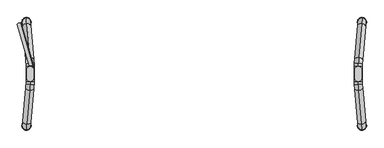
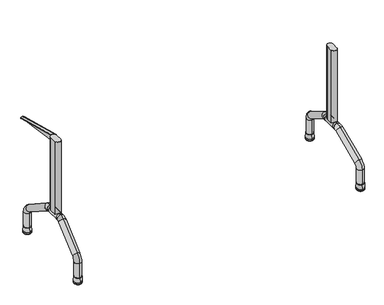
"""IFC4 building model written with IfcOpenShell, lengths in millimetres: furniture geometry, Mesa para refeitório : Mesa para refeitório 180x60cm cód 70471.6."""

from ifc_helpers import new_model, si_unit, point, frame, frame_2d, origin, place, context, project, spatial, polyline, circle_curve, ellipse_curve, trimmed, segment, composite_curve, outline, extrude, source, transform, mapped, element, save
from ifc_brep_helpers import plane_surface, cylinder_surface, revolved_surface, extruded_surface, advanced_brep


def furniture_8f38371c(model_context):
    return source(origin(), model_context, "Body", "SolidModel", [
        advanced_brep(
        [(-819.4401581, 37.5, 255.0), (-819.4401581, -37.5, 255.0), (-819.4401581, -37.5, 295.0), (-819.4401581, 37.5, 295.0), (-820.0583573, -51.7441422, 295.0), (-820.0583573, -51.7441422, 255.0), (-820.0583573, 51.7441422, 295.0), (-820.0583573, 51.7441422, 255.0)],
        [
            (0, 1),
            (1, 2, ellipse_curve(frame((-819.4401581, -37.5, 275.0), z_axis=(0.0, 1.0, 0.0), x_axis=(0.0, 0.0, -1.0)), 20.0, 19.923894)),
            (2, 3),
            (3, 0, ellipse_curve(frame((-819.4401581, 37.5, 275.0), z_axis=(0.0, -1.0, 0.0), x_axis=(0.0, 0.0, -1.0)), 20.0, 19.923894)),
            (2, 1, ellipse_curve(frame((-819.4401581, -37.5, 275.0), z_axis=(0.0, 1.0, 0.0), x_axis=(0.0, 0.0, -1.0)), 20.0, 19.923894)),
            (0, 3, ellipse_curve(frame((-819.4401581, 37.5, 275.0), z_axis=(0.0, -1.0, 0.0), x_axis=(0.0, 0.0, -1.0)), 20.0, 19.923894)),
            (4, 5, ellipse_curve(frame((-820.0583573, -51.7441422, 275.0), z_axis=(-0.08663729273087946, -0.9962399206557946, 0.0), x_axis=(0.0, 0.0, -1.0)), 20.0, 19.923894)),
            (5, 4, ellipse_curve(frame((-820.0583573, -51.7441422, 275.0), z_axis=(-0.08663729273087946, -0.9962399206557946, 0.0), x_axis=(0.0, 0.0, -1.0)), 20.0, 19.923894)),
            (4, 2, circle_curve(frame((-983.8513695, -37.5, 295.0), z_axis=(0.0, 0.0, 1.0), x_axis=(1.0, 0.0, 0.0)), 164.4112114)),
            (1, 5, circle_curve(frame((-983.8513695, -37.5, 255.0), z_axis=(0.0, 0.0, -1.0), x_axis=(1.0, 0.0, 0.0)), 164.4112114)),
            (6, 7, ellipse_curve(frame((-820.0583573, 51.7441422, 275.0), z_axis=(-0.08663729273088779, 0.9962399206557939, 0.0), x_axis=(0.0, 0.0, -1.0)), 20.0, 19.923894)),
            (7, 6, ellipse_curve(frame((-820.0583573, 51.7441422, 275.0), z_axis=(-0.08663729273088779, 0.9962399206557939, 0.0), x_axis=(0.0, 0.0, -1.0)), 20.0, 19.923894)),
            (3, 6, circle_curve(frame((-983.8513695, 37.5, 295.0), z_axis=(0.0, 0.0, 1.0), x_axis=(0.996239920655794, 0.08663729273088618, 0.0)), 164.4112114)),
            (7, 0, circle_curve(frame((-983.8513695, 37.5, 255.0), z_axis=(0.0, 0.0, -1.0), x_axis=(0.996239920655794, 0.08663729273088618, 0.0)), 164.4112114)),
        ],
        [
            extruded_surface(trimmed(ellipse_curve(frame((-819.4401581, 37.5, 275.0), z_axis=(0.0, -1.0, 0.0), x_axis=(0.0, 0.0, -1.0)), 20.0, 19.923894), [point((-819.4401581, 37.5, 295.0))], [point((-819.4401581, 37.5, 255.0))], True, "CARTESIAN"), (0.0, -75.0, 0.0), 75.0),
            extruded_surface(trimmed(ellipse_curve(frame((-819.4401581, 37.5, 275.0), z_axis=(0.0, -1.0, 0.0), x_axis=(0.0, 0.0, -1.0)), 20.0, 19.923894), [point((-819.4401581, 37.5, 255.0))], [point((-819.4401581, 37.5, 295.0))], True, "CARTESIAN"), (0.0, -75.0, 0.0), 75.0),
            plane_surface(frame((-820.0583573, -51.7441422, 0.0), z_axis=(-0.08663729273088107, -0.9962399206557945, 0.0), x_axis=(0.0, 0.0, 1.0))),
            revolved_surface(trimmed(ellipse_curve(frame((-819.4401581, -37.5, 275.0), z_axis=(0.0, -1.0, 0.0), x_axis=(0.0, 0.0, -1.0)), 20.0, 19.923894), [point((-819.4401581, -37.5, 295.0))], [point((-819.4401581, -37.5, 255.0))], True, "CARTESIAN"), (-983.8513695, -37.5, 0.0), (0.0, 0.0, 1.0)),
            revolved_surface(trimmed(ellipse_curve(frame((-819.4401581, -37.5, 275.0), z_axis=(0.0, -1.0, 0.0), x_axis=(0.0, 0.0, -1.0)), 20.0, 19.923894), [point((-819.4401581, -37.5, 255.0))], [point((-819.4401581, -37.5, 295.0))], True, "CARTESIAN"), (-983.8513695, -37.5, 0.0), (0.0, 0.0, 1.0)),
            plane_surface(frame((-820.0583573, 51.7441422, 0.0), z_axis=(-0.08663729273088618, 0.996239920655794, 0.0), x_axis=(0.0, 0.0, 1.0))),
            revolved_surface(trimmed(ellipse_curve(frame((-820.0583573, 51.7441422, 275.0), z_axis=(0.08663729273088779, -0.9962399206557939, 0.0), x_axis=(0.0, 0.0, -1.0)), 20.0, 19.923894), [point((-820.0583573, 51.7441422, 295.0))], [point((-820.0583573, 51.7441422, 255.0))], True, "CARTESIAN"), (-983.8513695, 37.5, 0.0), (0.0, 0.0, 1.0)),
            revolved_surface(trimmed(ellipse_curve(frame((-820.0583573, 51.7441422, 275.0), z_axis=(0.08663729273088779, -0.9962399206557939, 0.0), x_axis=(0.0, 0.0, -1.0)), 20.0, 19.923894), [point((-820.0583573, 51.7441422, 255.0))], [point((-820.0583573, 51.7441422, 295.0))], True, "CARTESIAN"), (-983.8513695, 37.5, 0.0), (0.0, 0.0, 1.0)),
        ],
        [
            (0, [[1, 2, 3, 4]]),
            (1, [[-3, 5, -1, 6]]),
            (2, [[7, 8]]),
            (3, [[-7, 9, -2, 10]]),
            (4, [[-8, -10, -5, -9]]),
            (5, [[11, 12]]),
            (6, [[-4, 13, -12, 14]]),
            (7, [[-6, -14, -11, -13]]),
        ],
    ),
        advanced_brep(
        [(-839.9590188, 279.1314153, 43.1183008), (-836.4727891, 239.2836274, 43.1183008), (-839.9590188, 279.1314153, 130.5759348), (-836.4727891, 239.2836274, 130.5759348), (-837.4872272, 250.8787073, 181.5558347), (-822.822711, 83.2625212, 285.9798998), (-820.9843424, 62.2498719, 251.9932999), (-835.6488585, 229.866058, 147.5692348), (-820.0651581, 51.7435473, 295.0), (-820.0651581, 51.7435473, 255.0)],
        [
            (0, 1, circle_curve(frame((-838.215904, 259.2075213, 43.1183008), z_axis=(0.0, 0.0, -1.0), x_axis=(0.08715574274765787, -0.9961946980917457, 0.0)), 20.0)),
            (1, 0, circle_curve(frame((-838.215904, 259.2075213, 43.1183008), z_axis=(0.0, 0.0, -1.0), x_axis=(0.08715574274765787, -0.9961946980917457, 0.0)), 20.0)),
            (0, 2),
            (2, 3, circle_curve(frame((-838.215904, 259.2075213, 130.5759348), z_axis=(0.0, 0.0, -1.0), x_axis=(0.08715574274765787, -0.9961946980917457, 0.0)), 20.0)),
            (3, 1),
            (3, 2, circle_curve(frame((-838.215904, 259.2075213, 130.5759348), z_axis=(0.0, 0.0, -1.0), x_axis=(0.08715574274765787, -0.9961946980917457, 0.0)), 20.0)),
            (4, 5),
            (5, 6, circle_curve(frame((-821.9035267, 72.7561965, 268.9865999), z_axis=(-0.07405318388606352, 0.8464317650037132, -0.5273228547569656), x_axis=(0.04595921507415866, -0.5253162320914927, -0.8496649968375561)), 20.0)),
            (6, 7),
            (7, 4, circle_curve(frame((-836.5680429, 240.3723827, 164.5625347), z_axis=(0.07405318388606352, -0.8464317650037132, 0.5273228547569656), x_axis=(0.04595921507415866, -0.5253162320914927, -0.8496649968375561)), 20.0)),
            (6, 5, circle_curve(frame((-821.9035267, 72.7561965, 268.9865999), z_axis=(-0.07405318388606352, 0.8464317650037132, -0.5273228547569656), x_axis=(0.04595921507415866, -0.5253162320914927, -0.8496649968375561)), 20.0)),
            (4, 7, circle_curve(frame((-836.5680429, 240.3723827, 164.5625347), z_axis=(0.07405318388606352, -0.8464317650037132, 0.5273228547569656), x_axis=(0.04595921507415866, -0.5253162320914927, -0.8496649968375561)), 20.0)),
            (7, 3, circle_curve(frame((-834.7296742, 219.3597334, 130.5759348), z_axis=(-0.9961946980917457, -0.08715574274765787, 0.0), x_axis=(-0.08715574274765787, 0.9961946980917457, 0.0)), 20.0)),
            (2, 4, circle_curve(frame((-834.7296742, 219.3597334, 130.5759348), z_axis=(0.9961946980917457, 0.08715574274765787, 0.0), x_axis=(-0.08715574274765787, 0.9961946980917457, 0.0)), 60.0)),
            (8, 9, circle_curve(frame((-820.0651581, 51.7435473, 275.0), z_axis=(0.08715574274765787, -0.9961946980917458, 0.0), x_axis=(0.0, 0.0, -1.0)), 20.0)),
            (9, 8, circle_curve(frame((-820.0651581, 51.7435473, 275.0), z_axis=(0.08715574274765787, -0.9961946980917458, 0.0), x_axis=(0.0, 0.0, -1.0)), 20.0)),
            (9, 6, circle_curve(frame((-820.0651581, 51.7435473, 235.0), z_axis=(-0.9961946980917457, -0.08715574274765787, 0.0), x_axis=(-0.045959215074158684, 0.5253162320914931, 0.8496649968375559)), 20.0)),
            (5, 8, circle_curve(frame((-820.0651581, 51.7435473, 235.0), z_axis=(0.9961946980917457, 0.08715574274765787, 0.0), x_axis=(-0.045959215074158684, 0.5253162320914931, 0.8496649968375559)), 60.0)),
        ],
        [
            plane_surface(frame((-150.8415623, 319.3449838, 43.1183008), z_axis=(0.0, 0.0, -1.0000000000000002), x_axis=(-0.9961946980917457, -0.08715574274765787, 0.0))),
            cylinder_surface(frame((-838.215904, 259.2075213, 43.1183008), z_axis=(0.0, 0.0, -1.0000000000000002), x_axis=(0.08715574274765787, -0.9961946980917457, 0.0)), 20.0),
            cylinder_surface(frame((-836.5680429, 240.3723827, 164.5625347), z_axis=(-0.07405318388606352, 0.8464317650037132, -0.5273228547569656), x_axis=(0.04595921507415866, -0.5253162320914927, -0.8496649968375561)), 20.0),
            revolved_surface(trimmed(ellipse_curve(frame((-838.215904, 259.2075213, 130.5759348), z_axis=(0.0, 0.0, 1.0000000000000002), x_axis=(0.08715574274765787, -0.9961946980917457, 0.0)), 20.0, 20.0), [point((-836.4727891, 239.2836274, 130.5759348))], [point((-839.9590188, 279.1314153, 130.5759348))], True, "CARTESIAN"), (-147.3553326, 279.4971959, 130.5759348), (-0.9961946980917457, -0.08715574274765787, 0.0)),
            revolved_surface(trimmed(ellipse_curve(frame((-838.215904, 259.2075213, 130.5759348), z_axis=(0.0, 0.0, 1.0000000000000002), x_axis=(0.08715574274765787, -0.9961946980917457, 0.0)), 20.0, 20.0), [point((-839.9590188, 279.1314153, 130.5759348))], [point((-836.4727891, 239.2836274, 130.5759348))], True, "CARTESIAN"), (-147.3553326, 279.4971959, 130.5759348), (-0.9961946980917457, -0.08715574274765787, 0.0)),
            plane_surface(frame((-132.6908165, 111.8810098, 275.0), z_axis=(0.08715574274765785, -0.9961946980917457, 0.0), x_axis=(-0.9961946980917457, -0.08715574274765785, 0.0))),
            revolved_surface(trimmed(ellipse_curve(frame((-821.9035267, 72.7561965, 268.9865999), z_axis=(0.07405318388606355, -0.8464317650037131, 0.527322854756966), x_axis=(0.04595921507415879, -0.5253162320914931, -0.8496649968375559)), 20.0, 20.0), [point((-820.9843424, 62.2498719, 251.9932999))], [point((-822.822711, 83.2625212, 285.9798998))], True, "CARTESIAN"), (-132.6908165, 111.8810098, 235.0), (-0.9961946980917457, -0.08715574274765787, 0.0)),
            revolved_surface(trimmed(ellipse_curve(frame((-821.9035267, 72.7561965, 268.9865999), z_axis=(0.07405318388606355, -0.8464317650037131, 0.527322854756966), x_axis=(0.04595921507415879, -0.5253162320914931, -0.8496649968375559)), 20.0, 20.0), [point((-822.822711, 83.2625212, 285.9798998))], [point((-820.9843424, 62.2498719, 251.9932999))], True, "CARTESIAN"), (-132.6908165, 111.8810098, 235.0), (-0.9961946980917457, -0.08715574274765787, 0.0)),
        ],
        [
            (0, [[1, 2]]),
            (1, [[3, 4, 5, -1]]),
            (1, [[-5, 6, -3, -2]]),
            (2, [[7, 8, 9, 10]]),
            (2, [[-9, 11, -7, 12]]),
            (3, [[-10, 13, -4, 14]]),
            (4, [[-12, -14, -6, -13]]),
            (5, [[15, 16]]),
            (6, [[-16, 17, -8, 18]]),
            (7, [[-15, -18, -11, -17]]),
        ],
    ),
        advanced_brep(
        [(-836.4727891, -239.2836274, 43.1183008), (-839.9590188, -279.1314153, 43.1183008), (-839.9590188, -279.1314153, 130.5759348), (-836.4727891, -239.2836274, 130.5759348), (-837.4872272, -250.8787073, 181.5558347), (-822.822711, -83.2625212, 285.9798998), (-820.9843424, -62.2498719, 251.9932999), (-835.6488585, -229.866058, 147.5692348), (-820.0651581, -51.7435473, 255.0), (-820.0651581, -51.7435473, 295.0)],
        [
            (0, 1, circle_curve(frame((-838.215904, -259.2075213, 43.1183008), z_axis=(0.0, 0.0, -1.0), x_axis=(-0.08715574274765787, -0.9961946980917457, 0.0)), 20.0)),
            (1, 0, circle_curve(frame((-838.215904, -259.2075213, 43.1183008), z_axis=(0.0, 0.0, -1.0), x_axis=(-0.08715574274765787, -0.9961946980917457, 0.0)), 20.0)),
            (1, 2),
            (2, 3, circle_curve(frame((-838.215904, -259.2075213, 130.5759348), z_axis=(0.0, 0.0, -1.0), x_axis=(-0.08715574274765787, -0.9961946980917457, 0.0)), 20.0)),
            (3, 0),
            (3, 2, circle_curve(frame((-838.215904, -259.2075213, 130.5759348), z_axis=(0.0, 0.0, -1.0), x_axis=(-0.08715574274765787, -0.9961946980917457, 0.0)), 20.0)),
            (4, 5),
            (5, 6, circle_curve(frame((-821.9035267, -72.7561965, 268.9865999), z_axis=(-0.07405318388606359, -0.8464317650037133, -0.5273228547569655), x_axis=(-0.04595921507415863, -0.5253162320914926, 0.8496649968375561)), 20.0)),
            (6, 7),
            (7, 4, circle_curve(frame((-836.5680429, -240.3723827, 164.5625347), z_axis=(0.07405318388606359, 0.8464317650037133, 0.5273228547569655), x_axis=(-0.04595921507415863, -0.5253162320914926, 0.8496649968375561)), 20.0)),
            (6, 5, circle_curve(frame((-821.9035267, -72.7561965, 268.9865999), z_axis=(-0.07405318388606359, -0.8464317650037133, -0.5273228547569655), x_axis=(-0.04595921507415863, -0.5253162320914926, 0.8496649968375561)), 20.0)),
            (4, 7, circle_curve(frame((-836.5680429, -240.3723827, 164.5625347), z_axis=(0.07405318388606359, 0.8464317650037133, 0.5273228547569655), x_axis=(-0.04595921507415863, -0.5253162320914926, 0.8496649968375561)), 20.0)),
            (7, 3, circle_curve(frame((-834.7296742, -219.3597334, 130.5759348), z_axis=(0.9961946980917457, -0.08715574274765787, 0.0), x_axis=(-0.08715574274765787, -0.9961946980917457, 0.0)), 20.0)),
            (2, 4, circle_curve(frame((-834.7296742, -219.3597334, 130.5759348), z_axis=(-0.9961946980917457, 0.08715574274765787, 0.0), x_axis=(-0.08715574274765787, -0.9961946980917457, 0.0)), 60.0)),
            (8, 9, circle_curve(frame((-820.0651581, -51.7435473, 275.0), z_axis=(0.08715574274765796, 0.9961946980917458, 0.0), x_axis=(0.0, 0.0, 1.0)), 20.0)),
            (9, 8, circle_curve(frame((-820.0651581, -51.7435473, 275.0), z_axis=(0.08715574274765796, 0.9961946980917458, 0.0), x_axis=(0.0, 0.0, 1.0)), 20.0)),
            (8, 6, circle_curve(frame((-820.0651581, -51.7435473, 235.0), z_axis=(0.9961946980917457, -0.08715574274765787, 0.0), x_axis=(-0.045959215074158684, -0.5253162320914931, 0.8496649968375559)), 20.0)),
            (5, 9, circle_curve(frame((-820.0651581, -51.7435473, 235.0), z_axis=(-0.9961946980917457, 0.08715574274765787, 0.0), x_axis=(-0.045959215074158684, -0.5253162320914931, 0.8496649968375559)), 60.0)),
        ],
        [
            plane_surface(frame((-150.8415623, -319.3449838, 43.1183008), z_axis=(0.0, 0.0, -1.0000000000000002), x_axis=(-0.9961946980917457, 0.08715574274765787, 0.0))),
            cylinder_surface(frame((-838.215904, -259.2075213, 43.1183008), z_axis=(0.0, 0.0, -1.0000000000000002), x_axis=(-0.08715574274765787, -0.9961946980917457, 0.0)), 20.0),
            cylinder_surface(frame((-836.5680429, -240.3723827, 164.5625347), z_axis=(-0.07405318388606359, -0.8464317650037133, -0.5273228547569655), x_axis=(-0.04595921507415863, -0.5253162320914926, 0.8496649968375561)), 20.0),
            revolved_surface(trimmed(ellipse_curve(frame((-838.215904, -259.2075213, 130.5759348), z_axis=(0.0, 0.0, 1.0000000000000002), x_axis=(-0.08715574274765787, -0.9961946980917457, 0.0)), 20.0, 20.0), [point((-836.4727891, -239.2836274, 130.5759348))], [point((-839.9590188, -279.1314153, 130.5759348))], True, "CARTESIAN"), (-147.3553326, -279.4971959, 130.5759348), (0.9961946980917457, -0.08715574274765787, 0.0)),
            revolved_surface(trimmed(ellipse_curve(frame((-838.215904, -259.2075213, 130.5759348), z_axis=(0.0, 0.0, 1.0000000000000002), x_axis=(-0.08715574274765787, -0.9961946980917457, 0.0)), 20.0, 20.0), [point((-839.9590188, -279.1314153, 130.5759348))], [point((-836.4727891, -239.2836274, 130.5759348))], True, "CARTESIAN"), (-147.3553326, -279.4971959, 130.5759348), (0.9961946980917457, -0.08715574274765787, 0.0)),
            plane_surface(frame((-132.6908165, -111.8810098, 275.0), z_axis=(0.0871557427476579, 0.9961946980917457, 0.0), x_axis=(-0.9961946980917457, 0.0871557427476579, 0.0))),
            revolved_surface(trimmed(ellipse_curve(frame((-821.9035267, -72.7561965, 268.9865999), z_axis=(0.07405318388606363, 0.8464317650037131, 0.527322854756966), x_axis=(-0.04595921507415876, -0.5253162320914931, 0.8496649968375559)), 20.0, 20.0), [point((-820.9843424, -62.2498719, 251.9932999))], [point((-822.822711, -83.2625212, 285.9798998))], True, "CARTESIAN"), (-132.6908165, -111.8810098, 235.0), (0.9961946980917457, -0.08715574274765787, 0.0)),
            revolved_surface(trimmed(ellipse_curve(frame((-821.9035267, -72.7561965, 268.9865999), z_axis=(0.07405318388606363, 0.8464317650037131, 0.527322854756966), x_axis=(-0.04595921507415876, -0.5253162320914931, 0.8496649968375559)), 20.0, 20.0), [point((-822.822711, -83.2625212, 285.9798998))], [point((-820.9843424, -62.2498719, 251.9932999))], True, "CARTESIAN"), (-132.6908165, -111.8810098, 235.0), (0.9961946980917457, -0.08715574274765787, 0.0)),
        ],
        [
            (0, [[1, 2]]),
            (1, [[3, 4, 5, -2]]),
            (1, [[-5, 6, -3, -1]]),
            (2, [[7, 8, 9, 10]]),
            (2, [[-9, 11, -7, 12]]),
            (3, [[-10, 13, -4, 14]]),
            (4, [[-12, -14, -6, -13]]),
            (5, [[15, 16]]),
            (6, [[-15, 17, -8, 18]]),
            (7, [[-16, -18, -11, -17]]),
        ],
    ),
        extrude(outline(composite_curve([segment(polyline([(-837.5814475, -19.3376613), (-837.5814475, 19.4032698)]), True, "CONTINUOUS"), segment(trimmed(circle_curve(frame_2d((-819.5814475, 19.4032698)), 18.0), [point((-837.5814475, 19.4032698))], [point((-801.5814475, 19.4032698))], False, "CARTESIAN"), True, "CONTINUOUS"), segment(polyline([(-801.5814475, 19.4032698), (-801.5814475, -19.3376613)]), True, "CONTINUOUS"), segment(trimmed(circle_curve(frame_2d((-819.5814475, -19.3376613)), 18.0), [point((-801.5814475, -19.3376613))], [point((-837.5814475, -19.3376613))], False, "CARTESIAN"), True, "CONTINUOUS")], self_intersect=False)), frame((0.0, 0.0, 275.0), z_axis=(0.0, 0.0, 1.0), x_axis=(1.0, 0.0, 0.0)), (0.0, 0.0, 1.0), 467.0),
        advanced_brep(
        [(819.4401581, 37.5, 255.0), (819.4401581, 37.5, 295.0), (819.4401581, -37.5, 295.0), (819.4401581, -37.5, 255.0), (820.0583573, -51.7441422, 295.0), (820.0583573, -51.7441422, 255.0), (820.0583573, 51.7441422, 295.0), (820.0583573, 51.7441422, 255.0)],
        [
            (0, 1, ellipse_curve(frame((819.4401581, 37.5, 275.0), z_axis=(0.0, -1.0, 0.0), x_axis=(0.0, 0.0, -1.0)), 20.0, 19.923894)),
            (1, 2),
            (2, 3, ellipse_curve(frame((819.4401581, -37.5, 275.0), z_axis=(0.0, 1.0, 0.0), x_axis=(0.0, 0.0, -1.0)), 20.0, 19.923894)),
            (3, 0),
            (1, 0, ellipse_curve(frame((819.4401581, 37.5, 275.0), z_axis=(0.0, -1.0, 0.0), x_axis=(0.0, 0.0, -1.0)), 20.0, 19.923894)),
            (3, 2, ellipse_curve(frame((819.4401581, -37.5, 275.0), z_axis=(0.0, 1.0, 0.0), x_axis=(0.0, 0.0, -1.0)), 20.0, 19.923894)),
            (4, 5, ellipse_curve(frame((820.0583573, -51.7441422, 275.0), z_axis=(0.08663729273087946, -0.9962399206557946, 0.0), x_axis=(0.0, 0.0, -1.0)), 20.0, 19.923894)),
            (5, 4, ellipse_curve(frame((820.0583573, -51.7441422, 275.0), z_axis=(0.08663729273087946, -0.9962399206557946, 0.0), x_axis=(0.0, 0.0, -1.0)), 20.0, 19.923894)),
            (5, 3, circle_curve(frame((983.8513695, -37.5, 255.0), z_axis=(0.0, 0.0, -1.0), x_axis=(-1.0, 0.0, 0.0)), 164.4112114)),
            (2, 4, circle_curve(frame((983.8513695, -37.5, 295.0), z_axis=(0.0, 0.0, 1.0), x_axis=(-1.0, 0.0, 0.0)), 164.4112114)),
            (6, 7, ellipse_curve(frame((820.0583573, 51.7441422, 275.0), z_axis=(0.08663729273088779, 0.9962399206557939, 0.0), x_axis=(0.0, 0.0, -1.0)), 20.0, 19.923894)),
            (7, 6, ellipse_curve(frame((820.0583573, 51.7441422, 275.0), z_axis=(0.08663729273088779, 0.9962399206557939, 0.0), x_axis=(0.0, 0.0, -1.0)), 20.0, 19.923894)),
            (0, 7, circle_curve(frame((983.8513695, 37.5, 255.0), z_axis=(0.0, 0.0, -1.0), x_axis=(-0.996239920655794, 0.08663729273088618, 0.0)), 164.4112114)),
            (6, 1, circle_curve(frame((983.8513695, 37.5, 295.0), z_axis=(0.0, 0.0, 1.0), x_axis=(-0.996239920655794, 0.08663729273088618, 0.0)), 164.4112114)),
        ],
        [
            extruded_surface(trimmed(ellipse_curve(frame((819.4401581, -37.5, 275.0), z_axis=(0.0, 1.0, 0.0), x_axis=(0.0, 0.0, -1.0)), 20.0, 19.923894), [point((819.4401581, -37.5, 295.0))], [point((819.4401581, -37.5, 255.0))], True, "CARTESIAN"), (0.0, 75.0, 0.0), 75.0),
            extruded_surface(trimmed(ellipse_curve(frame((819.4401581, -37.5, 275.0), z_axis=(0.0, 1.0, 0.0), x_axis=(0.0, 0.0, -1.0)), 20.0, 19.923894), [point((819.4401581, -37.5, 255.0))], [point((819.4401581, -37.5, 295.0))], True, "CARTESIAN"), (0.0, 75.0, 0.0), 75.0),
            plane_surface(frame((820.0583573, -51.7441422, 0.0), z_axis=(0.08663729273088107, -0.9962399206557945, 0.0), x_axis=(0.0, 0.0, 1.0))),
            revolved_surface(trimmed(ellipse_curve(frame((819.4401581, -37.5, 275.0), z_axis=(0.0, 1.0, 0.0), x_axis=(0.0, 0.0, -1.0)), 20.0, 19.923894), [point((819.4401581, -37.5, 295.0))], [point((819.4401581, -37.5, 255.0))], True, "CARTESIAN"), (983.8513695, -37.5, 0.0), (0.0, 0.0, 1.0)),
            revolved_surface(trimmed(ellipse_curve(frame((819.4401581, -37.5, 275.0), z_axis=(0.0, 1.0, 0.0), x_axis=(0.0, 0.0, -1.0)), 20.0, 19.923894), [point((819.4401581, -37.5, 255.0))], [point((819.4401581, -37.5, 295.0))], True, "CARTESIAN"), (983.8513695, -37.5, 0.0), (0.0, 0.0, 1.0)),
            plane_surface(frame((820.0583573, 51.7441422, 0.0), z_axis=(0.08663729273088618, 0.996239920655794, 0.0), x_axis=(0.0, 0.0, 1.0))),
            revolved_surface(trimmed(ellipse_curve(frame((820.0583573, 51.7441422, 275.0), z_axis=(0.08663729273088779, 0.9962399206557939, 0.0), x_axis=(0.0, 0.0, -1.0)), 20.0, 19.923894), [point((820.0583573, 51.7441422, 295.0))], [point((820.0583573, 51.7441422, 255.0))], True, "CARTESIAN"), (983.8513695, 37.5, 0.0), (0.0, 0.0, 1.0)),
            revolved_surface(trimmed(ellipse_curve(frame((820.0583573, 51.7441422, 275.0), z_axis=(0.08663729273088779, 0.9962399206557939, 0.0), x_axis=(0.0, 0.0, -1.0)), 20.0, 19.923894), [point((820.0583573, 51.7441422, 255.0))], [point((820.0583573, 51.7441422, 295.0))], True, "CARTESIAN"), (983.8513695, 37.5, 0.0), (0.0, 0.0, 1.0)),
        ],
        [
            (0, [[1, 2, 3, 4]]),
            (1, [[5, -4, 6, -2]]),
            (2, [[7, 8]]),
            (3, [[9, -3, 10, -8]]),
            (4, [[-10, -6, -9, -7]]),
            (5, [[11, 12]]),
            (6, [[13, -11, 14, -1]]),
            (7, [[-14, -12, -13, -5]]),
        ],
    ),
        advanced_brep(
        [(839.9590188, 279.1314153, 43.1183008), (836.4727891, 239.2836274, 43.1183008), (836.4727891, 239.2836274, 130.5759348), (839.9590188, 279.1314153, 130.5759348), (837.4872272, 250.8787073, 181.5558347), (835.6488585, 229.866058, 147.5692348), (820.9843424, 62.2498719, 251.9932999), (822.822711, 83.2625212, 285.9798998), (820.0651581, 51.7435473, 295.0), (820.0651581, 51.7435473, 255.0)],
        [
            (0, 1, circle_curve(frame((838.215904, 259.2075213, 43.1183008), z_axis=(0.0, 0.0, -1.0), x_axis=(-0.08715574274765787, -0.9961946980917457, 0.0)), 20.0)),
            (1, 0, circle_curve(frame((838.215904, 259.2075213, 43.1183008), z_axis=(0.0, 0.0, -1.0), x_axis=(-0.08715574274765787, -0.9961946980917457, 0.0)), 20.0)),
            (1, 2),
            (2, 3, circle_curve(frame((838.215904, 259.2075213, 130.5759348), z_axis=(0.0, 0.0, -1.0), x_axis=(-0.08715574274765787, -0.9961946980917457, 0.0)), 20.0)),
            (3, 0),
            (3, 2, circle_curve(frame((838.215904, 259.2075213, 130.5759348), z_axis=(0.0, 0.0, -1.0), x_axis=(-0.08715574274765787, -0.9961946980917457, 0.0)), 20.0)),
            (4, 5, circle_curve(frame((836.5680429, 240.3723827, 164.5625347), z_axis=(-0.07405318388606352, -0.8464317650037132, 0.5273228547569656), x_axis=(-0.04595921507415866, -0.5253162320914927, -0.8496649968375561)), 20.0)),
            (5, 6),
            (6, 7, circle_curve(frame((821.9035267, 72.7561965, 268.9865999), z_axis=(0.07405318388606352, 0.8464317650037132, -0.5273228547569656), x_axis=(-0.04595921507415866, -0.5253162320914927, -0.8496649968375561)), 20.0)),
            (7, 4),
            (5, 4, circle_curve(frame((836.5680429, 240.3723827, 164.5625347), z_axis=(-0.07405318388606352, -0.8464317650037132, 0.5273228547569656), x_axis=(-0.04595921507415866, -0.5253162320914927, -0.8496649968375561)), 20.0)),
            (7, 6, circle_curve(frame((821.9035267, 72.7561965, 268.9865999), z_axis=(0.07405318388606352, 0.8464317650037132, -0.5273228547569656), x_axis=(-0.04595921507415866, -0.5253162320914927, -0.8496649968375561)), 20.0)),
            (4, 3, circle_curve(frame((834.7296742, 219.3597334, 130.5759348), z_axis=(-0.9961946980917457, 0.08715574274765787, 0.0), x_axis=(0.08715574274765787, 0.9961946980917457, 0.0)), 60.0)),
            (2, 5, circle_curve(frame((834.7296742, 219.3597334, 130.5759348), z_axis=(0.9961946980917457, -0.08715574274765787, 0.0), x_axis=(0.08715574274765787, 0.9961946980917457, 0.0)), 20.0)),
            (8, 9, circle_curve(frame((820.0651581, 51.7435473, 275.0), z_axis=(-0.08715574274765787, -0.9961946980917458, 0.0), x_axis=(0.0, 0.0, -1.0)), 20.0)),
            (9, 8, circle_curve(frame((820.0651581, 51.7435473, 275.0), z_axis=(-0.08715574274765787, -0.9961946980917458, 0.0), x_axis=(0.0, 0.0, -1.0)), 20.0)),
            (8, 7, circle_curve(frame((820.0651581, 51.7435473, 235.0), z_axis=(-0.9961946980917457, 0.08715574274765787, 0.0), x_axis=(0.045959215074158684, 0.5253162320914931, 0.8496649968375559)), 60.0)),
            (6, 9, circle_curve(frame((820.0651581, 51.7435473, 235.0), z_axis=(0.9961946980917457, -0.08715574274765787, 0.0), x_axis=(0.045959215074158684, 0.5253162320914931, 0.8496649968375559)), 20.0)),
        ],
        [
            plane_surface(frame((150.8415623, 319.3449838, 43.1183008), z_axis=(0.0, 0.0, -1.0000000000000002), x_axis=(0.9961946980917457, -0.08715574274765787, 0.0))),
            cylinder_surface(frame((838.215904, 259.2075213, 43.1183008), z_axis=(0.0, 0.0, -1.0000000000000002), x_axis=(-0.08715574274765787, -0.9961946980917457, 0.0)), 20.0),
            cylinder_surface(frame((836.5680429, 240.3723827, 164.5625347), z_axis=(0.07405318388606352, 0.8464317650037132, -0.5273228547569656), x_axis=(-0.04595921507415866, -0.5253162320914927, -0.8496649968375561)), 20.0),
            revolved_surface(trimmed(ellipse_curve(frame((838.215904, 259.2075213, 130.5759348), z_axis=(0.0, 0.0, -1.0000000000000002), x_axis=(-0.08715574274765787, -0.9961946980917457, 0.0)), 20.0, 20.0), [point((836.4727891, 239.2836274, 130.5759348))], [point((839.9590188, 279.1314153, 130.5759348))], True, "CARTESIAN"), (147.3553326, 279.4971959, 130.5759348), (0.9961946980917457, -0.08715574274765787, 0.0)),
            revolved_surface(trimmed(ellipse_curve(frame((838.215904, 259.2075213, 130.5759348), z_axis=(0.0, 0.0, -1.0000000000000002), x_axis=(-0.08715574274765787, -0.9961946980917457, 0.0)), 20.0, 20.0), [point((839.9590188, 279.1314153, 130.5759348))], [point((836.4727891, 239.2836274, 130.5759348))], True, "CARTESIAN"), (147.3553326, 279.4971959, 130.5759348), (0.9961946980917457, -0.08715574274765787, 0.0)),
            plane_surface(frame((132.6908165, 111.8810098, 275.0), z_axis=(-0.08715574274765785, -0.9961946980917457, 0.0), x_axis=(0.9961946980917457, -0.08715574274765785, 0.0))),
            revolved_surface(trimmed(ellipse_curve(frame((821.9035267, 72.7561965, 268.9865999), z_axis=(0.07405318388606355, 0.8464317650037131, -0.527322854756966), x_axis=(-0.04595921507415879, -0.5253162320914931, -0.8496649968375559)), 20.0, 20.0), [point((820.9843424, 62.2498719, 251.9932999))], [point((822.822711, 83.2625212, 285.9798998))], True, "CARTESIAN"), (132.6908165, 111.8810098, 235.0), (0.9961946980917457, -0.08715574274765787, 0.0)),
            revolved_surface(trimmed(ellipse_curve(frame((821.9035267, 72.7561965, 268.9865999), z_axis=(0.07405318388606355, 0.8464317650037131, -0.527322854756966), x_axis=(-0.04595921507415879, -0.5253162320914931, -0.8496649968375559)), 20.0, 20.0), [point((822.822711, 83.2625212, 285.9798998))], [point((820.9843424, 62.2498719, 251.9932999))], True, "CARTESIAN"), (132.6908165, 111.8810098, 235.0), (0.9961946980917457, -0.08715574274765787, 0.0)),
        ],
        [
            (0, [[1, 2]]),
            (1, [[-2, 3, 4, 5]]),
            (1, [[-1, -5, 6, -3]]),
            (2, [[7, 8, 9, 10]]),
            (2, [[11, -10, 12, -8]]),
            (3, [[13, -4, 14, -7]]),
            (4, [[-14, -6, -13, -11]]),
            (5, [[15, 16]]),
            (6, [[17, -9, 18, -15]]),
            (7, [[-18, -12, -17, -16]]),
        ],
    ),
        advanced_brep(
        [(836.4727891, -239.2836274, 43.1183008), (839.9590188, -279.1314153, 43.1183008), (836.4727891, -239.2836274, 130.5759348), (839.9590188, -279.1314153, 130.5759348), (837.4872272, -250.8787073, 181.5558347), (835.6488585, -229.866058, 147.5692348), (820.9843424, -62.2498719, 251.9932999), (822.822711, -83.2625212, 285.9798998), (820.0651581, -51.7435473, 255.0), (820.0651581, -51.7435473, 295.0)],
        [
            (0, 1, circle_curve(frame((838.215904, -259.2075213, 43.1183008), z_axis=(0.0, 0.0, -1.0), x_axis=(0.08715574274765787, -0.9961946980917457, 0.0)), 20.0)),
            (1, 0, circle_curve(frame((838.215904, -259.2075213, 43.1183008), z_axis=(0.0, 0.0, -1.0), x_axis=(0.08715574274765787, -0.9961946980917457, 0.0)), 20.0)),
            (0, 2),
            (2, 3, circle_curve(frame((838.215904, -259.2075213, 130.5759348), z_axis=(0.0, 0.0, -1.0), x_axis=(0.08715574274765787, -0.9961946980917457, 0.0)), 20.0)),
            (3, 1),
            (3, 2, circle_curve(frame((838.215904, -259.2075213, 130.5759348), z_axis=(0.0, 0.0, -1.0), x_axis=(0.08715574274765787, -0.9961946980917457, 0.0)), 20.0)),
            (4, 5, circle_curve(frame((836.5680429, -240.3723827, 164.5625347), z_axis=(-0.07405318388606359, 0.8464317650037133, 0.5273228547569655), x_axis=(0.04595921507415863, -0.5253162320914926, 0.8496649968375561)), 20.0)),
            (5, 6),
            (6, 7, circle_curve(frame((821.9035267, -72.7561965, 268.9865999), z_axis=(0.07405318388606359, -0.8464317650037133, -0.5273228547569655), x_axis=(0.04595921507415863, -0.5253162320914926, 0.8496649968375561)), 20.0)),
            (7, 4),
            (5, 4, circle_curve(frame((836.5680429, -240.3723827, 164.5625347), z_axis=(-0.07405318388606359, 0.8464317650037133, 0.5273228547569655), x_axis=(0.04595921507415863, -0.5253162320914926, 0.8496649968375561)), 20.0)),
            (7, 6, circle_curve(frame((821.9035267, -72.7561965, 268.9865999), z_axis=(0.07405318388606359, -0.8464317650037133, -0.5273228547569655), x_axis=(0.04595921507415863, -0.5253162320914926, 0.8496649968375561)), 20.0)),
            (4, 3, circle_curve(frame((834.7296742, -219.3597334, 130.5759348), z_axis=(0.9961946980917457, 0.08715574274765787, 0.0), x_axis=(0.08715574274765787, -0.9961946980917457, 0.0)), 60.0)),
            (2, 5, circle_curve(frame((834.7296742, -219.3597334, 130.5759348), z_axis=(-0.9961946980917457, -0.08715574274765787, 0.0), x_axis=(0.08715574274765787, -0.9961946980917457, 0.0)), 20.0)),
            (8, 9, circle_curve(frame((820.0651581, -51.7435473, 275.0), z_axis=(-0.08715574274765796, 0.9961946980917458, 0.0), x_axis=(0.0, 0.0, 1.0)), 20.0)),
            (9, 8, circle_curve(frame((820.0651581, -51.7435473, 275.0), z_axis=(-0.08715574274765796, 0.9961946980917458, 0.0), x_axis=(0.0, 0.0, 1.0)), 20.0)),
            (9, 7, circle_curve(frame((820.0651581, -51.7435473, 235.0), z_axis=(0.9961946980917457, 0.08715574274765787, 0.0), x_axis=(0.045959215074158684, -0.5253162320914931, 0.8496649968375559)), 60.0)),
            (6, 8, circle_curve(frame((820.0651581, -51.7435473, 235.0), z_axis=(-0.9961946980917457, -0.08715574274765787, 0.0), x_axis=(0.045959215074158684, -0.5253162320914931, 0.8496649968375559)), 20.0)),
        ],
        [
            plane_surface(frame((150.8415623, -319.3449838, 43.1183008), z_axis=(0.0, 0.0, -1.0000000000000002), x_axis=(0.9961946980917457, 0.08715574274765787, 0.0))),
            cylinder_surface(frame((838.215904, -259.2075213, 43.1183008), z_axis=(0.0, 0.0, -1.0000000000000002), x_axis=(0.08715574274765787, -0.9961946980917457, 0.0)), 20.0),
            cylinder_surface(frame((836.5680429, -240.3723827, 164.5625347), z_axis=(0.07405318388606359, -0.8464317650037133, -0.5273228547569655), x_axis=(0.04595921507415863, -0.5253162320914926, 0.8496649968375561)), 20.0),
            revolved_surface(trimmed(ellipse_curve(frame((838.215904, -259.2075213, 130.5759348), z_axis=(0.0, 0.0, -1.0000000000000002), x_axis=(0.08715574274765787, -0.9961946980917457, 0.0)), 20.0, 20.0), [point((836.4727891, -239.2836274, 130.5759348))], [point((839.9590188, -279.1314153, 130.5759348))], True, "CARTESIAN"), (147.3553326, -279.4971959, 130.5759348), (-0.9961946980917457, -0.08715574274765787, 0.0)),
            revolved_surface(trimmed(ellipse_curve(frame((838.215904, -259.2075213, 130.5759348), z_axis=(0.0, 0.0, -1.0000000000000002), x_axis=(0.08715574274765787, -0.9961946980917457, 0.0)), 20.0, 20.0), [point((839.9590188, -279.1314153, 130.5759348))], [point((836.4727891, -239.2836274, 130.5759348))], True, "CARTESIAN"), (147.3553326, -279.4971959, 130.5759348), (-0.9961946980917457, -0.08715574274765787, 0.0)),
            plane_surface(frame((132.6908165, -111.8810098, 275.0), z_axis=(-0.0871557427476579, 0.9961946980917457, 0.0), x_axis=(0.9961946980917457, 0.0871557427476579, 0.0))),
            revolved_surface(trimmed(ellipse_curve(frame((821.9035267, -72.7561965, 268.9865999), z_axis=(0.07405318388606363, -0.8464317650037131, -0.527322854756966), x_axis=(0.04595921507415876, -0.5253162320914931, 0.8496649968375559)), 20.0, 20.0), [point((820.9843424, -62.2498719, 251.9932999))], [point((822.822711, -83.2625212, 285.9798998))], True, "CARTESIAN"), (132.6908165, -111.8810098, 235.0), (-0.9961946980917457, -0.08715574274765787, 0.0)),
            revolved_surface(trimmed(ellipse_curve(frame((821.9035267, -72.7561965, 268.9865999), z_axis=(0.07405318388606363, -0.8464317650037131, -0.527322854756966), x_axis=(0.04595921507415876, -0.5253162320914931, 0.8496649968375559)), 20.0, 20.0), [point((822.822711, -83.2625212, 285.9798998))], [point((820.9843424, -62.2498719, 251.9932999))], True, "CARTESIAN"), (132.6908165, -111.8810098, 235.0), (-0.9961946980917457, -0.08715574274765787, 0.0)),
        ],
        [
            (0, [[1, 2]]),
            (1, [[-1, 3, 4, 5]]),
            (1, [[-2, -5, 6, -3]]),
            (2, [[7, 8, 9, 10]]),
            (2, [[11, -10, 12, -8]]),
            (3, [[13, -4, 14, -7]]),
            (4, [[-14, -6, -13, -11]]),
            (5, [[15, 16]]),
            (6, [[17, -9, 18, -16]]),
            (7, [[-18, -12, -17, -15]]),
        ],
    ),
        extrude(outline(composite_curve([segment(trimmed(circle_curve(frame_2d((819.5814475, -19.3376613)), 18.0), [point((837.5814475, -19.3376613))], [point((801.5814475, -19.3376613))], False, "CARTESIAN"), True, "CONTINUOUS"), segment(polyline([(801.5814475, -19.3376613), (801.5814475, 19.4032698)]), True, "CONTINUOUS"), segment(trimmed(circle_curve(frame_2d((819.5814475, 19.4032698)), 18.0), [point((801.5814475, 19.4032698))], [point((837.5814475, 19.4032698))], False, "CARTESIAN"), True, "CONTINUOUS"), segment(polyline([(837.5814475, 19.4032698), (837.5814475, -19.3376613)]), True, "CONTINUOUS")], self_intersect=False)), frame((0.0, 0.0, 275.0), z_axis=(0.0, 0.0, 1.0), x_axis=(1.0, 0.0, 0.0)), (0.0, 0.0, 1.0), 467.0),
        advanced_brep(
        [(-838.215904, 280.5839249, 42.9792915), (-838.215904, 281.212521, 42.3931162), (-838.215904, 238.787479, 42.3931162), (-838.215904, 239.4160751, 42.9792915), (-838.215904, 283.125, 15.0433923), (-838.215904, 236.875, 15.0433923), (-838.215904, 283.125, 7.2213749), (-838.215904, 236.875, 7.2213749), (-838.215904, 276.0093092, 0.1056841), (-838.215904, 243.9906908, 0.1056841), (-838.215904, 260.0, 0.1056841), (-838.215904, 260.0, 42.9792915)],
        [
            (0, 1, circle_curve(frame((-838.215904, 280.5839249, 42.3491605), z_axis=(-1.0, 0.0, 0.0), x_axis=(0.0, -1.0, 0.0)), 0.630131)),
            (1, 2, circle_curve(frame((-838.215904, 260.0, 42.3931162), z_axis=(0.0, 0.0, 1.0), x_axis=(0.0, -1.0, 0.0)), 21.212521)),
            (2, 3, circle_curve(frame((-838.215904, 239.4160751, 42.3491605), z_axis=(-1.0, 0.0, 0.0), x_axis=(0.0, 1.0, 0.0)), 0.630131)),
            (3, 0, circle_curve(frame((-838.215904, 260.0, 42.9792915), z_axis=(0.0, 0.0, -1.0), x_axis=(0.0, -1.0, 0.0)), 20.5839249)),
            (2, 1, circle_curve(frame((-838.215904, 260.0, 42.3931162), z_axis=(0.0, 0.0, 1.0), x_axis=(0.0, -1.0, 0.0)), 21.212521)),
            (0, 3, circle_curve(frame((-838.215904, 260.0, 42.9792915), z_axis=(0.0, 0.0, -1.0), x_axis=(0.0, -1.0, 0.0)), 20.5839249)),
            (1, 4),
            (4, 5, circle_curve(frame((-838.215904, 260.0, 15.0433923), z_axis=(0.0, 0.0, 1.0), x_axis=(0.0, -1.0, 0.0)), 23.125)),
            (5, 2),
            (5, 4, circle_curve(frame((-838.215904, 260.0, 15.0433923), z_axis=(0.0, 0.0, 1.0), x_axis=(0.0, -1.0, 0.0)), 23.125)),
            (4, 6),
            (6, 7, circle_curve(frame((-838.215904, 260.0, 7.2213749), z_axis=(0.0, 0.0, 1.0), x_axis=(0.0, -1.0, 0.0)), 23.125)),
            (7, 5),
            (7, 6, circle_curve(frame((-838.215904, 260.0, 7.2213749), z_axis=(0.0, 0.0, 1.0), x_axis=(0.0, -1.0, 0.0)), 23.125)),
            (6, 8, circle_curve(frame((-838.215904, 276.0093092, 7.2213749), z_axis=(-1.0, 0.0, 0.0), x_axis=(0.0, -1.0, 0.0)), 7.1156908)),
            (8, 9, circle_curve(frame((-838.215904, 260.0, 0.1056841), z_axis=(0.0, 0.0, 1.0), x_axis=(0.0, -1.0, 0.0)), 16.0093092)),
            (9, 7, circle_curve(frame((-838.215904, 243.9906908, 7.2213749), z_axis=(-1.0, 0.0, 0.0), x_axis=(0.0, 1.0, 0.0)), 7.1156908)),
            (9, 8, circle_curve(frame((-838.215904, 260.0, 0.1056841), z_axis=(0.0, 0.0, 1.0), x_axis=(0.0, -1.0, 0.0)), 16.0093092)),
            (8, 10),
            (10, 9),
            (11, 0),
            (3, 11),
        ],
        [
            revolved_surface(trimmed(ellipse_curve(frame((-838.215904, 239.4160751, 42.3491605), z_axis=(-1.0, 0.0, 0.0), x_axis=(0.0, 1.0, 0.0)), 0.630131, 0.630131), [point((-838.215904, 238.787479, 42.3931162))], [point((-838.215904, 239.4160751, 42.9792915))], True, "CARTESIAN"), (-838.215904, 260.0, 0.1056841), (0.0, 0.0, 1.0)),
            revolved_surface(polyline([(-838.215904, 236.875, 15.0433923), (-838.215904, 238.787479, 42.3931162)]), (-838.215904, 260.0, 0.1056841), (0.0, 0.0, 1.0)),
            cylinder_surface(frame((-838.215904, 260.0, 0.1056841), z_axis=(0.0, 0.0, 1.0), x_axis=(0.0, -1.0, 0.0)), 23.125),
            revolved_surface(trimmed(ellipse_curve(frame((-838.215904, 243.9906908, 7.2213749), z_axis=(-1.0, 0.0, 0.0), x_axis=(0.0, 1.0, 0.0)), 7.1156908, 7.1156908), [point((-838.215904, 243.9906908, 0.1056841))], [point((-838.215904, 236.875, 7.2213749))], True, "CARTESIAN"), (-838.215904, 260.0, 0.1056841), (0.0, 0.0, 1.0)),
            plane_surface(frame((-838.215904, 260.0, 0.1056841), z_axis=(0.0, 0.0, -1.0), x_axis=(0.0, -1.0, 0.0))),
            plane_surface(frame((-838.215904, 260.0, 42.9792915), z_axis=(0.0, 0.0, 1.0), x_axis=(0.0, -1.0, 0.0))),
        ],
        [
            (0, [[1, 2, 3, 4]]),
            (0, [[-3, 5, -1, 6]]),
            (1, [[7, 8, 9, -2]]),
            (1, [[-9, 10, -7, -5]]),
            (2, [[11, 12, 13, -8]]),
            (2, [[-13, 14, -11, -10]]),
            (3, [[15, 16, 17, -12]]),
            (3, [[-17, 18, -15, -14]]),
            (4, [[19, 20, -16]]),
            (4, [[-20, -19, -18]]),
            (5, [[21, -4, 22]]),
            (5, [[-22, -6, -21]]),
        ],
    ),
        advanced_brep(
        [(-838.215904, -239.4160751, 42.9792915), (-838.215904, -238.787479, 42.3931162), (-838.215904, -281.212521, 42.3931162), (-838.215904, -280.5839249, 42.9792915), (-838.215904, -236.875, 15.0433923), (-838.215904, -283.125, 15.0433923), (-838.215904, -236.875, 7.2213749), (-838.215904, -283.125, 7.2213749), (-838.215904, -243.9906908, 0.1056841), (-838.215904, -276.0093092, 0.1056841), (-838.215904, -260.0, 0.1056841), (-838.215904, -260.0, 42.9792915)],
        [
            (0, 1, circle_curve(frame((-838.215904, -239.4160751, 42.3491605), z_axis=(-1.0, 0.0, 0.0), x_axis=(0.0, -1.0, 0.0)), 0.630131)),
            (1, 2, circle_curve(frame((-838.215904, -260.0, 42.3931162), z_axis=(0.0, 0.0, 1.0), x_axis=(0.0, -1.0, 0.0)), 21.212521)),
            (2, 3, circle_curve(frame((-838.215904, -280.5839249, 42.3491605), z_axis=(-1.0, 0.0, 0.0), x_axis=(0.0, 1.0, 0.0)), 0.630131)),
            (3, 0, circle_curve(frame((-838.215904, -260.0, 42.9792915), z_axis=(0.0, 0.0, -1.0), x_axis=(0.0, -1.0, 0.0)), 20.5839249)),
            (2, 1, circle_curve(frame((-838.215904, -260.0, 42.3931162), z_axis=(0.0, 0.0, 1.0), x_axis=(0.0, -1.0, 0.0)), 21.212521)),
            (0, 3, circle_curve(frame((-838.215904, -260.0, 42.9792915), z_axis=(0.0, 0.0, -1.0), x_axis=(0.0, -1.0, 0.0)), 20.5839249)),
            (1, 4),
            (4, 5, circle_curve(frame((-838.215904, -260.0, 15.0433923), z_axis=(0.0, 0.0, 1.0), x_axis=(0.0, -1.0, 0.0)), 23.125)),
            (5, 2),
            (5, 4, circle_curve(frame((-838.215904, -260.0, 15.0433923), z_axis=(0.0, 0.0, 1.0), x_axis=(0.0, -1.0, 0.0)), 23.125)),
            (4, 6),
            (6, 7, circle_curve(frame((-838.215904, -260.0, 7.2213749), z_axis=(0.0, 0.0, 1.0), x_axis=(0.0, -1.0, 0.0)), 23.125)),
            (7, 5),
            (7, 6, circle_curve(frame((-838.215904, -260.0, 7.2213749), z_axis=(0.0, 0.0, 1.0), x_axis=(0.0, -1.0, 0.0)), 23.125)),
            (6, 8, circle_curve(frame((-838.215904, -243.9906908, 7.2213749), z_axis=(-1.0, 0.0, 0.0), x_axis=(0.0, -1.0, 0.0)), 7.1156908)),
            (8, 9, circle_curve(frame((-838.215904, -260.0, 0.1056841), z_axis=(0.0, 0.0, 1.0), x_axis=(0.0, -1.0, 0.0)), 16.0093092)),
            (9, 7, circle_curve(frame((-838.215904, -276.0093092, 7.2213749), z_axis=(-1.0, 0.0, 0.0), x_axis=(0.0, 1.0, 0.0)), 7.1156908)),
            (9, 8, circle_curve(frame((-838.215904, -260.0, 0.1056841), z_axis=(0.0, 0.0, 1.0), x_axis=(0.0, -1.0, 0.0)), 16.0093092)),
            (8, 10),
            (10, 9),
            (11, 0),
            (3, 11),
        ],
        [
            revolved_surface(trimmed(ellipse_curve(frame((-838.215904, -280.5839249, 42.3491605), z_axis=(-1.0, 0.0, 0.0), x_axis=(0.0, 1.0, 0.0)), 0.630131, 0.630131), [point((-838.215904, -281.212521, 42.3931162))], [point((-838.215904, -280.5839249, 42.9792915))], True, "CARTESIAN"), (-838.215904, -260.0, 0.1056841), (0.0, 0.0, 1.0)),
            revolved_surface(polyline([(-838.215904, -283.125, 15.0433923), (-838.215904, -281.212521, 42.3931162)]), (-838.215904, -260.0, 0.1056841), (0.0, 0.0, 1.0)),
            cylinder_surface(frame((-838.215904, -260.0, 0.1056841), z_axis=(0.0, 0.0, 1.0), x_axis=(0.0, -1.0, 0.0)), 23.125),
            revolved_surface(trimmed(ellipse_curve(frame((-838.215904, -276.0093092, 7.2213749), z_axis=(-1.0, 0.0, 0.0), x_axis=(0.0, 1.0, 0.0)), 7.1156908, 7.1156908), [point((-838.215904, -276.0093092, 0.1056841))], [point((-838.215904, -283.125, 7.2213749))], True, "CARTESIAN"), (-838.215904, -260.0, 0.1056841), (0.0, 0.0, 1.0)),
            plane_surface(frame((-838.215904, -260.0, 0.1056841), z_axis=(0.0, 0.0, -1.0), x_axis=(0.0, -1.0, 0.0))),
            plane_surface(frame((-838.215904, -260.0, 42.9792915), z_axis=(0.0, 0.0, 1.0), x_axis=(0.0, -1.0, 0.0))),
        ],
        [
            (0, [[1, 2, 3, 4]]),
            (0, [[-3, 5, -1, 6]]),
            (1, [[7, 8, 9, -2]]),
            (1, [[-9, 10, -7, -5]]),
            (2, [[11, 12, 13, -8]]),
            (2, [[-13, 14, -11, -10]]),
            (3, [[15, 16, 17, -12]]),
            (3, [[-17, 18, -15, -14]]),
            (4, [[19, 20, -16]]),
            (4, [[-20, -19, -18]]),
            (5, [[21, -4, 22]]),
            (5, [[-22, -6, -21]]),
        ],
    ),
        advanced_brep(
        [(838.215904, 280.5839249, 42.9792915), (838.215904, 239.4160751, 42.9792915), (838.215904, 238.787479, 42.3931162), (838.215904, 281.212521, 42.3931162), (838.215904, 236.875, 15.0433923), (838.215904, 283.125, 15.0433923), (838.215904, 236.875, 7.2213749), (838.215904, 283.125, 7.2213749), (838.215904, 243.9906908, 0.1056841), (838.215904, 276.0093092, 0.1056841), (838.215904, 260.0, 0.1056841), (838.215904, 260.0, 42.9792915)],
        [
            (0, 1, circle_curve(frame((838.215904, 260.0, 42.9792915), z_axis=(0.0, 0.0, -1.0), x_axis=(0.0, -1.0, 0.0)), 20.5839249)),
            (1, 2, circle_curve(frame((838.215904, 239.4160751, 42.3491605), z_axis=(1.0, 0.0, 0.0), x_axis=(0.0, 1.0, 0.0)), 0.630131)),
            (2, 3, circle_curve(frame((838.215904, 260.0, 42.3931162), z_axis=(0.0, 0.0, 1.0), x_axis=(0.0, -1.0, 0.0)), 21.212521)),
            (3, 0, circle_curve(frame((838.215904, 280.5839249, 42.3491605), z_axis=(1.0, 0.0, 0.0), x_axis=(0.0, -1.0, 0.0)), 0.630131)),
            (1, 0, circle_curve(frame((838.215904, 260.0, 42.9792915), z_axis=(0.0, 0.0, -1.0), x_axis=(0.0, -1.0, 0.0)), 20.5839249)),
            (3, 2, circle_curve(frame((838.215904, 260.0, 42.3931162), z_axis=(0.0, 0.0, 1.0), x_axis=(0.0, -1.0, 0.0)), 21.212521)),
            (2, 4),
            (4, 5, circle_curve(frame((838.215904, 260.0, 15.0433923), z_axis=(0.0, 0.0, 1.0), x_axis=(0.0, -1.0, 0.0)), 23.125)),
            (5, 3),
            (5, 4, circle_curve(frame((838.215904, 260.0, 15.0433923), z_axis=(0.0, 0.0, 1.0), x_axis=(0.0, -1.0, 0.0)), 23.125)),
            (4, 6),
            (6, 7, circle_curve(frame((838.215904, 260.0, 7.2213749), z_axis=(0.0, 0.0, 1.0), x_axis=(0.0, -1.0, 0.0)), 23.125)),
            (7, 5),
            (7, 6, circle_curve(frame((838.215904, 260.0, 7.2213749), z_axis=(0.0, 0.0, 1.0), x_axis=(0.0, -1.0, 0.0)), 23.125)),
            (6, 8, circle_curve(frame((838.215904, 243.9906908, 7.2213749), z_axis=(1.0, 0.0, 0.0), x_axis=(0.0, 1.0, 0.0)), 7.1156908)),
            (8, 9, circle_curve(frame((838.215904, 260.0, 0.1056841), z_axis=(0.0, 0.0, 1.0), x_axis=(0.0, -1.0, 0.0)), 16.0093092)),
            (9, 7, circle_curve(frame((838.215904, 276.0093092, 7.2213749), z_axis=(1.0, 0.0, 0.0), x_axis=(0.0, -1.0, 0.0)), 7.1156908)),
            (9, 8, circle_curve(frame((838.215904, 260.0, 0.1056841), z_axis=(0.0, 0.0, 1.0), x_axis=(0.0, -1.0, 0.0)), 16.0093092)),
            (8, 10),
            (10, 9),
            (11, 1),
            (0, 11),
        ],
        [
            revolved_surface(trimmed(ellipse_curve(frame((838.215904, 239.4160751, 42.3491605), z_axis=(-1.0, 0.0, 0.0), x_axis=(0.0, 1.0, 0.0)), 0.630131, 0.630131), [point((838.215904, 238.787479, 42.3931162))], [point((838.215904, 239.4160751, 42.9792915))], True, "CARTESIAN"), (838.215904, 260.0, 0.1056841), (0.0, 0.0, 1.0)),
            revolved_surface(polyline([(838.215904, 236.875, 15.0433923), (838.215904, 238.787479, 42.3931162)]), (838.215904, 260.0, 0.1056841), (0.0, 0.0, 1.0)),
            cylinder_surface(frame((838.215904, 260.0, 0.1056841), z_axis=(0.0, 0.0, 1.0), x_axis=(0.0, -1.0, 0.0)), 23.125),
            revolved_surface(trimmed(ellipse_curve(frame((838.215904, 243.9906908, 7.2213749), z_axis=(-1.0, 0.0, 0.0), x_axis=(0.0, 1.0, 0.0)), 7.1156908, 7.1156908), [point((838.215904, 243.9906908, 0.1056841))], [point((838.215904, 236.875, 7.2213749))], True, "CARTESIAN"), (838.215904, 260.0, 0.1056841), (0.0, 0.0, 1.0)),
            plane_surface(frame((838.215904, 260.0, 0.1056841), z_axis=(0.0, 0.0, -1.0), x_axis=(0.0, -1.0, 0.0))),
            plane_surface(frame((838.215904, 260.0, 42.9792915), z_axis=(0.0, 0.0, 1.0), x_axis=(0.0, -1.0, 0.0))),
        ],
        [
            (0, [[1, 2, 3, 4]]),
            (0, [[5, -4, 6, -2]]),
            (1, [[-3, 7, 8, 9]]),
            (1, [[-6, -9, 10, -7]]),
            (2, [[-8, 11, 12, 13]]),
            (2, [[-10, -13, 14, -11]]),
            (3, [[-12, 15, 16, 17]]),
            (3, [[-14, -17, 18, -15]]),
            (4, [[-16, 19, 20]]),
            (4, [[-18, -20, -19]]),
            (5, [[21, -1, 22]]),
            (5, [[-22, -5, -21]]),
        ],
    ),
        advanced_brep(
        [(838.215904, -239.4160751, 42.9792915), (838.215904, -280.5839249, 42.9792915), (838.215904, -281.212521, 42.3931162), (838.215904, -238.787479, 42.3931162), (838.215904, -283.125, 15.0433923), (838.215904, -236.875, 15.0433923), (838.215904, -283.125, 7.2213749), (838.215904, -236.875, 7.2213749), (838.215904, -276.0093092, 0.1056841), (838.215904, -243.9906908, 0.1056841), (838.215904, -260.0, 0.1056841), (838.215904, -260.0, 42.9792915)],
        [
            (0, 1, circle_curve(frame((838.215904, -260.0, 42.9792915), z_axis=(0.0, 0.0, -1.0), x_axis=(0.0, -1.0, 0.0)), 20.5839249)),
            (1, 2, circle_curve(frame((838.215904, -280.5839249, 42.3491605), z_axis=(1.0, 0.0, 0.0), x_axis=(0.0, 1.0, 0.0)), 0.630131)),
            (2, 3, circle_curve(frame((838.215904, -260.0, 42.3931162), z_axis=(0.0, 0.0, 1.0), x_axis=(0.0, -1.0, 0.0)), 21.212521)),
            (3, 0, circle_curve(frame((838.215904, -239.4160751, 42.3491605), z_axis=(1.0, 0.0, 0.0), x_axis=(0.0, -1.0, 0.0)), 0.630131)),
            (1, 0, circle_curve(frame((838.215904, -260.0, 42.9792915), z_axis=(0.0, 0.0, -1.0), x_axis=(0.0, -1.0, 0.0)), 20.5839249)),
            (3, 2, circle_curve(frame((838.215904, -260.0, 42.3931162), z_axis=(0.0, 0.0, 1.0), x_axis=(0.0, -1.0, 0.0)), 21.212521)),
            (2, 4),
            (4, 5, circle_curve(frame((838.215904, -260.0, 15.0433923), z_axis=(0.0, 0.0, 1.0), x_axis=(0.0, -1.0, 0.0)), 23.125)),
            (5, 3),
            (5, 4, circle_curve(frame((838.215904, -260.0, 15.0433923), z_axis=(0.0, 0.0, 1.0), x_axis=(0.0, -1.0, 0.0)), 23.125)),
            (4, 6),
            (6, 7, circle_curve(frame((838.215904, -260.0, 7.2213749), z_axis=(0.0, 0.0, 1.0), x_axis=(0.0, -1.0, 0.0)), 23.125)),
            (7, 5),
            (7, 6, circle_curve(frame((838.215904, -260.0, 7.2213749), z_axis=(0.0, 0.0, 1.0), x_axis=(0.0, -1.0, 0.0)), 23.125)),
            (6, 8, circle_curve(frame((838.215904, -276.0093092, 7.2213749), z_axis=(1.0, 0.0, 0.0), x_axis=(0.0, 1.0, 0.0)), 7.1156908)),
            (8, 9, circle_curve(frame((838.215904, -260.0, 0.1056841), z_axis=(0.0, 0.0, 1.0), x_axis=(0.0, -1.0, 0.0)), 16.0093092)),
            (9, 7, circle_curve(frame((838.215904, -243.9906908, 7.2213749), z_axis=(1.0, 0.0, 0.0), x_axis=(0.0, -1.0, 0.0)), 7.1156908)),
            (9, 8, circle_curve(frame((838.215904, -260.0, 0.1056841), z_axis=(0.0, 0.0, 1.0), x_axis=(0.0, -1.0, 0.0)), 16.0093092)),
            (8, 10),
            (10, 9),
            (11, 1),
            (0, 11),
        ],
        [
            revolved_surface(trimmed(ellipse_curve(frame((838.215904, -280.5839249, 42.3491605), z_axis=(-1.0, 0.0, 0.0), x_axis=(0.0, 1.0, 0.0)), 0.630131, 0.630131), [point((838.215904, -281.212521, 42.3931162))], [point((838.215904, -280.5839249, 42.9792915))], True, "CARTESIAN"), (838.215904, -260.0, 0.1056841), (0.0, 0.0, 1.0)),
            revolved_surface(polyline([(838.215904, -283.125, 15.0433923), (838.215904, -281.212521, 42.3931162)]), (838.215904, -260.0, 0.1056841), (0.0, 0.0, 1.0)),
            cylinder_surface(frame((838.215904, -260.0, 0.1056841), z_axis=(0.0, 0.0, 1.0), x_axis=(0.0, -1.0, 0.0)), 23.125),
            revolved_surface(trimmed(ellipse_curve(frame((838.215904, -276.0093092, 7.2213749), z_axis=(-1.0, 0.0, 0.0), x_axis=(0.0, 1.0, 0.0)), 7.1156908, 7.1156908), [point((838.215904, -276.0093092, 0.1056841))], [point((838.215904, -283.125, 7.2213749))], True, "CARTESIAN"), (838.215904, -260.0, 0.1056841), (0.0, 0.0, 1.0)),
            plane_surface(frame((838.215904, -260.0, 0.1056841), z_axis=(0.0, 0.0, -1.0), x_axis=(0.0, -1.0, 0.0))),
            plane_surface(frame((838.215904, -260.0, 42.9792915), z_axis=(0.0, 0.0, 1.0), x_axis=(0.0, -1.0, 0.0))),
        ],
        [
            (0, [[1, 2, 3, 4]]),
            (0, [[5, -4, 6, -2]]),
            (1, [[-3, 7, 8, 9]]),
            (1, [[-6, -9, 10, -7]]),
            (2, [[-8, 11, 12, 13]]),
            (2, [[-10, -13, 14, -11]]),
            (3, [[-12, 15, 16, 17]]),
            (3, [[-14, -17, 18, -15]]),
            (4, [[-16, 19, 20]]),
            (4, [[-18, -20, -19]]),
            (5, [[21, -1, 22]]),
            (5, [[-22, -5, -21]]),
        ],
    ),
        extrude(outline(composite_curve([segment(polyline([(0.0, 0.0), (-11.3499079, -59.0370689), (-236.7172151, -15.7100843)]), True, "CONTINUOUS"), segment(trimmed(circle_curve(frame_2d((-235.1976245, -7.8058636)), 8.0489664), [point((-236.7172151, -15.7100843))], [point((-237.1608757, 0.0))], False, "CARTESIAN"), True, "CONTINUOUS"), segment(polyline([(-237.1608757, 0.0), (0.0, 0.0)]), True, "CONTINUOUS")], self_intersect=False)), frame((-801.5529394, 28.1487461, 681.8818171), z_axis=(0.9612616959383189, 0.27563735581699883, 0.0), x_axis=(0.2706805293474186, -0.943975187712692, -0.1887932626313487)), (0.0, 0.0, 1.0), 1.932216),
        extrude(outline(composite_curve([segment(polyline([(-805.6618953, 42.5875081), (-824.3872851, 42.5875081), (-882.9451635, 246.803099)]), True, "CONTINUOUS"), segment(trimmed(circle_curve(frame_2d((-878.138855, 248.1812858)), 5.0), [point((-882.9451635, 246.803099))], [point((-879.5170418, 252.9875943))], False, "CARTESIAN"), True, "CONTINUOUS"), segment(polyline([(-879.5170418, 252.9875943), (-867.0206397, 256.5708799), (-805.6618953, 42.5875081)]), True, "CONTINUOUS")], self_intersect=False)), frame((0.0, 0.0, 740.0), z_axis=(0.0, 0.0, 1.0), x_axis=(1.0, 0.0, 0.0)), (0.0, 0.0, 1.0), 2.0),
    ])


if __name__ == "__main__":
    model = new_model("IFC4")
    model_context = context("Model", 3, world=origin())
    ifc_project = project(units=[si_unit("LENGTHUNIT", "METRE", prefix="MILLI")], contexts=[model_context])
    site = spatial("IfcSite", under=ifc_project)
    building = spatial("IfcBuilding", under=site)
    placement = place(None, origin())
    furniture_shape = furniture_8f38371c(model_context)
    element("IfcFurniture", 1, ObjectType="Mesa para refeitório : Mesa para refeitório 180x60cm cód 70471.6", at=placement, inside=building, context=model_context, shape_type="MappedRepresentation", body=[
        mapped(furniture_shape, transform((0.0, 0.0, 0.0), x_axis=(1.0, 0.0, 0.0), y_axis=(0.0, 1.0, 0.0), z_axis=(0.0, 0.0, 1.0))),
    ])
    save(model, "model.ifc")
